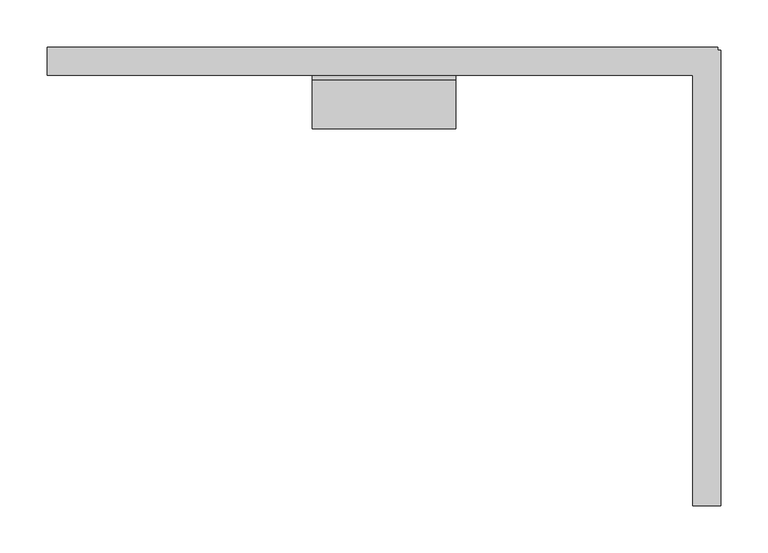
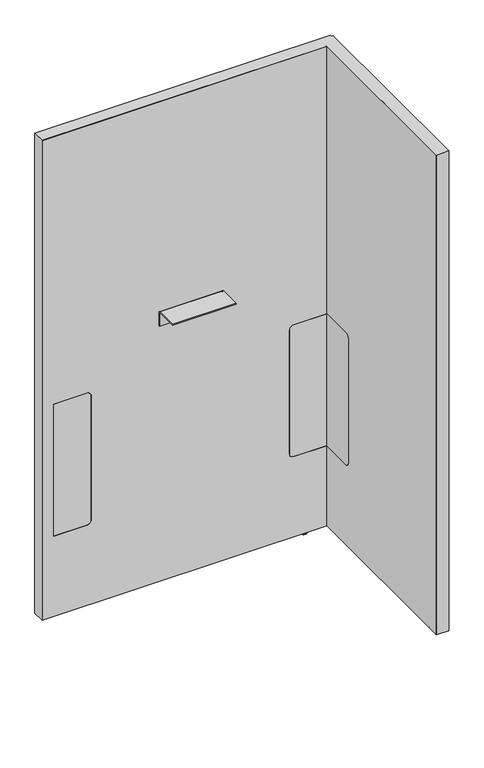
"""IFC4 building model written with IfcOpenShell, lengths in millimetres: furniture geometry, Steelcase - Answer Solution - Boundary Screen - L Return - Single Sided : 48H x 27W."""

from ifc_helpers import new_model, si_unit, point, frame, frame_2d, origin, place, context, project, spatial, polyline, circle_curve, ellipse_curve, trimmed, segment, composite_curve, outline, extrude, faceted_brep, source, transform, mapped, element, save
from ifc_brep_helpers import plane_surface, cylinder_surface, revolved_surface, advanced_brep


def furniture_51c7d5d5(model_context):
    return source(origin(), model_context, "Body", "SolidModel", [
        extrude(outline(composite_curve([segment(polyline([(-109.3501471, 549.6162029), (-29.0550397, 549.6162029), (-29.0550397, 213.7762137), (-109.3501471, 213.7762137)]), True, "CONTINUOUS"), segment(trimmed(circle_curve(frame_2d((-109.3501471, 223.9362137)), 10.16), [point((-109.3501471, 213.7762137))], [point((-119.5101471, 223.9362137))], False, "CARTESIAN"), True, "CONTINUOUS"), segment(polyline([(-119.5101471, 223.9362137), (-119.5101471, 539.4562029)]), True, "CONTINUOUS"), segment(trimmed(circle_curve(frame_2d((-109.3501471, 539.4562029)), 10.16), [point((-119.5101471, 539.4562029))], [point((-109.3501471, 549.6162029))], False, "CARTESIAN"), True, "CONTINUOUS")], self_intersect=False)), frame((915.6191891, 0.0, 0.0), z_axis=(1.0, 0.0, 0.0), x_axis=(0.0, 1.0, 0.0)), (0.0, 0.0, 1.0), 0.6401544),
        advanced_brep(
        [(930.4672074, -448.0136072, 0.0), (937.4216144, -448.0136072, 0.0), (923.5128003, -448.0136072, 0.0), (938.8762685, -448.0136072, 1.2700001), (922.0581463, -448.0136072, 1.2700001), (938.8762685, -448.0136072, 2.9673238), (922.0581463, -448.0136072, 2.9673238), (939.8427877, -448.0136072, 2.9673238), (921.091627, -448.0136072, 2.9673238), (939.8427877, -448.0136072, 9.9059849), (921.091627, -448.0136072, 9.9059849), (930.4672074, -448.0136072, 9.9059849)],
        [
            (0, 1),
            (1, 2, circle_curve(frame((930.4672074, -448.0136072, 0.0), z_axis=(0.0, 0.0, -1.0), x_axis=(1.0, 0.0, 0.0)), 6.9544071)),
            (2, 0),
            (2, 1, circle_curve(frame((930.4672074, -448.0136072, 0.0), z_axis=(0.0, 0.0, -1.0), x_axis=(1.0, 0.0, 0.0)), 6.9544071)),
            (1, 3, circle_curve(frame((937.5945484, -448.0136072, 1.2700001), z_axis=(0.0, -1.0, 0.0), x_axis=(0.0, 0.0, 1.0)), 1.2817201)),
            (3, 4, circle_curve(frame((930.4672074, -448.0136072, 1.2700001), z_axis=(0.0, 0.0, -1.0), x_axis=(1.0, 0.0, 0.0)), 8.4090611)),
            (4, 2, circle_curve(frame((923.3398663, -448.0136072, 1.2700001), z_axis=(0.0, -1.0, 0.0), x_axis=(0.0, 0.0, 1.0)), 1.2817201)),
            (4, 3, circle_curve(frame((930.4672074, -448.0136072, 1.2700001), z_axis=(0.0, 0.0, -1.0), x_axis=(1.0, 0.0, 0.0)), 8.4090611)),
            (3, 5),
            (5, 6, circle_curve(frame((930.4672074, -448.0136072, 2.9673238), z_axis=(0.0, 0.0, -1.0), x_axis=(1.0, 0.0, 0.0)), 8.4090611)),
            (6, 4),
            (6, 5, circle_curve(frame((930.4672074, -448.0136072, 2.9673238), z_axis=(0.0, 0.0, -1.0), x_axis=(1.0, 0.0, 0.0)), 8.4090611)),
            (5, 7),
            (7, 8, circle_curve(frame((930.4672074, -448.0136072, 2.9673238), z_axis=(0.0, 0.0, -1.0), x_axis=(1.0, 0.0, 0.0)), 9.3755804)),
            (8, 6),
            (8, 7, circle_curve(frame((930.4672074, -448.0136072, 2.9673238), z_axis=(0.0, 0.0, -1.0), x_axis=(1.0, 0.0, 0.0)), 9.3755804)),
            (7, 9),
            (9, 10, circle_curve(frame((930.4672074, -448.0136072, 9.9059849), z_axis=(0.0, 0.0, -1.0), x_axis=(1.0, 0.0, 0.0)), 9.3755804)),
            (10, 8),
            (10, 9, circle_curve(frame((930.4672074, -448.0136072, 9.9059849), z_axis=(0.0, 0.0, -1.0), x_axis=(1.0, 0.0, 0.0)), 9.3755804)),
            (9, 11),
            (11, 10),
        ],
        [
            plane_surface(frame((930.4672074, -448.0136072, 0.0), z_axis=(0.0, 0.0, -1.0), x_axis=(1.0, 0.0, 0.0))),
            revolved_surface(trimmed(ellipse_curve(frame((937.5945484, -448.0136072, 1.2700001), z_axis=(0.0, 1.0, 0.0), x_axis=(0.0, 0.0, 1.0)), 1.2817201, 1.2817201), [point((938.8762685, -448.0136072, 1.2700001))], [point((937.4216144, -448.0136072, 0.0))], True, "CARTESIAN"), (930.4672074, -448.0136072, 9.9059849), (0.0, 0.0, -1.0)),
            cylinder_surface(frame((930.4672074, -448.0136072, 9.9059849), z_axis=(0.0, 0.0, -1.0), x_axis=(1.0, 0.0, 0.0)), 8.4090611),
            plane_surface(frame((930.4672074, -448.0136072, 2.9673238), z_axis=(0.0, 0.0, -1.0), x_axis=(1.0, 0.0, 0.0))),
            cylinder_surface(frame((930.4672074, -448.0136072, 9.9059849), z_axis=(0.0, 0.0, -1.0), x_axis=(1.0, 0.0, 0.0)), 9.3755804),
            plane_surface(frame((930.4672074, -448.0136072, 9.9059849), z_axis=(0.0, 0.0, 1.0), x_axis=(1.0, 0.0, 0.0))),
        ],
        [
            (0, [[1, 2, 3]]),
            (0, [[-3, 4, -1]]),
            (1, [[-2, 5, 6, 7]]),
            (1, [[-4, -7, 8, -5]]),
            (2, [[-6, 9, 10, 11]]),
            (2, [[-8, -11, 12, -9]]),
            (3, [[-10, 13, 14, 15]]),
            (3, [[-12, -15, 16, -13]]),
            (4, [[-14, 17, 18, 19]]),
            (4, [[-16, -19, 20, -17]]),
            (5, [[-18, 21, 22]]),
            (5, [[-20, -22, -21]]),
        ],
    ),
        faceted_brep([(942.0531179, 0.0, 1230.122), (942.0531179, 0.0, 9.9059849), (941.0621491, 0.0, 9.9059849), (941.0621491, 0.0, 1229.142118), (230.8097779, 0.0, 1229.142118), (230.8097779, 0.0, 9.9059849), (229.8191891, 0.0, 9.9059849), (229.8191891, 0.0, 1230.122), (229.8191891, -29.6898332, 1230.122), (229.8191891, -29.6898332, 9.9059849), (230.8097779, -29.6898332, 9.9059849), (230.8097779, -29.6898332, 1229.142118), (915.6191891, -29.6898332, 1229.142118), (915.6191891, -29.6898332, 1230.122), (941.0621491, -29.6898332, 1229.142118), (941.0621491, -29.6898332, 9.9059849), (942.0531179, -29.6898332, 9.9059849), (942.0531179, -29.6898332, 1229.142118), (942.0531179, -3.2625916, 1230.122), (942.0531179, -3.2625916, 9.9059849), (942.0531179, -4.252647, 9.9059849), (942.0531179, -4.252647, 1229.142118), (945.3152256, -3.2625916, 9.9059849), (945.3152256, -4.252647, 9.9059849), (941.0621491, -4.252647, 9.9059849), (915.6191891, -4.252647, 9.9059849), (915.6191891, -3.2625916, 9.9059849), (941.0621491, -3.2625916, 9.9059849), (915.6191891, -486.8898332, 1230.122), (945.3152256, -486.8898332, 1230.122), (945.3152256, -3.2625916, 1230.122), (941.0621491, -3.2625916, 1229.142118), (941.0621491, -4.252647, 1229.142118), (915.6191891, -3.2625916, 1229.142118), (915.6191891, -4.252647, 1229.142118), (945.3152256, -4.252647, 1229.142118), (945.3152256, -485.899196, 1229.142118), (915.6191891, -485.899196, 1229.142118), (915.6191891, -485.899196, 9.9059849), (915.6191891, -486.8898332, 9.9059849), (945.3152256, -486.8898332, 9.9059849), (945.3152256, -485.899196, 9.9059849)], [[[0, 1, 2, 3, 4, 5, 6, 7]], [[8, 9, 10, 11, 12, 13]], [[14, 15, 16, 17]], [[1, 0, 18, 19]], [[17, 16, 20, 21]], [[2, 1, 19, 22, 23, 20, 16, 15, 24, 25, 26, 27]], [[7, 6, 9, 8]], [[0, 7, 8, 13, 28, 29, 30, 18]], [[3, 2, 27, 31]], [[15, 14, 32, 24]], [[4, 3, 31, 33, 34, 32, 14, 17, 21, 35, 36, 37, 12, 11]], [[5, 4, 11, 10]], [[6, 5, 10, 9]], [[26, 25, 34, 33]], [[37, 38, 39, 28, 13, 12]], [[29, 40, 41, 36, 35, 23, 22, 30]], [[27, 26, 33, 31]], [[30, 22, 19, 18]], [[34, 25, 24, 32]], [[23, 35, 21, 20]], [[38, 37, 36, 41]], [[39, 38, 41, 40]], [[28, 39, 40, 29]]]),
        extrude(outline(composite_curve([segment(polyline([(-86.8398151, 696.4680019), (-86.8398151, 698.5), (-34.9450855, 698.5)]), True, "CONTINUOUS"), segment(trimmed(circle_curve(frame_2d((-34.9450855, 693.2447477)), 5.2552523), [point((-34.9450855, 698.5))], [point((-29.6898332, 693.2447477))], False, "CARTESIAN"), True, "CONTINUOUS"), segment(polyline([(-29.6898332, 693.2447477), (-29.6898332, 660.4), (-31.7218162, 660.4), (-31.7218162, 693.0058743)]), True, "CONTINUOUS"), segment(trimmed(circle_curve(frame_2d((-35.1839438, 693.0058743)), 3.4621276), [point((-31.7218162, 693.0058743))], [point((-35.1839438, 696.4680019))], True, "CARTESIAN"), True, "CONTINUOUS"), segment(polyline([(-35.1839438, 696.4680019), (-86.8398151, 696.4680019)]), True, "CONTINUOUS")], self_intersect=False)), frame((511.3685899, 0.0, 0.0), z_axis=(1.0, 0.0, 0.0), x_axis=(0.0, 1.0, 0.0)), (0.0, 0.0, 1.0), 152.4000969),
        advanced_brep(
        [(868.1246853, -23.7588726, 9.9059849), (868.1246853, -5.9309607, 9.9059849), (868.1246853, -14.8449166, 9.9059849), (868.1246853, -23.7588726, 2.9673238), (868.1246853, -5.9309607, 2.9673238), (868.1246853, -22.7915354, 2.9673238), (868.1246853, -6.8982978, 2.9673238), (868.1246853, -22.7915354, 1.6569081), (868.1246853, -6.8982978, 1.6569081), (868.1246853, -21.1346274, 0.0), (868.1246853, -8.5552059, 0.0), (868.1246853, -14.8449166, 0.0)],
        [
            (0, 1, circle_curve(frame((868.1246853, -14.8449166, 9.9059849), z_axis=(0.0, 0.0, 1.0), x_axis=(0.0, 1.0, 0.0)), 8.913956)),
            (1, 2),
            (2, 0),
            (1, 0, circle_curve(frame((868.1246853, -14.8449166, 9.9059849), z_axis=(0.0, 0.0, 1.0), x_axis=(0.0, 1.0, 0.0)), 8.913956)),
            (3, 4, circle_curve(frame((868.1246853, -14.8449166, 2.9673238), z_axis=(0.0, 0.0, 1.0), x_axis=(0.0, 1.0, 0.0)), 8.913956)),
            (4, 1),
            (0, 3),
            (4, 3, circle_curve(frame((868.1246853, -14.8449166, 2.9673238), z_axis=(0.0, 0.0, 1.0), x_axis=(0.0, 1.0, 0.0)), 8.913956)),
            (5, 6, circle_curve(frame((868.1246853, -14.8449166, 2.9673238), z_axis=(0.0, 0.0, 1.0), x_axis=(0.0, 1.0, 0.0)), 7.9466188)),
            (6, 4),
            (3, 5),
            (6, 5, circle_curve(frame((868.1246853, -14.8449166, 2.9673238), z_axis=(0.0, 0.0, 1.0), x_axis=(0.0, 1.0, 0.0)), 7.9466188)),
            (7, 8, circle_curve(frame((868.1246853, -14.8449166, 1.6569081), z_axis=(0.0, 0.0, 1.0), x_axis=(0.0, 1.0, 0.0)), 7.9466188)),
            (8, 6),
            (5, 7),
            (8, 7, circle_curve(frame((868.1246853, -14.8449166, 1.6569081), z_axis=(0.0, 0.0, 1.0), x_axis=(0.0, 1.0, 0.0)), 7.9466188)),
            (9, 10, circle_curve(frame((868.1246853, -14.8449166, 0.0), z_axis=(0.0, 0.0, 1.0), x_axis=(0.0, 1.0, 0.0)), 6.2897107)),
            (10, 8, circle_curve(frame((868.1246853, -8.5552059, 1.6569081), z_axis=(1.0, 0.0, 0.0), x_axis=(0.0, 1.0, 0.0)), 1.6569081)),
            (7, 9, circle_curve(frame((868.1246853, -21.1346274, 1.6569081), z_axis=(1.0, 0.0, 0.0), x_axis=(0.0, -1.0, 0.0)), 1.6569081)),
            (10, 9, circle_curve(frame((868.1246853, -14.8449166, 0.0), z_axis=(0.0, 0.0, 1.0), x_axis=(0.0, 1.0, 0.0)), 6.2897107)),
            (11, 10),
            (9, 11),
        ],
        [
            plane_surface(frame((868.1246853, -14.8449166, 9.9059849), z_axis=(0.0, 0.0, 1.0), x_axis=(0.0, 1.0, 0.0))),
            cylinder_surface(frame((868.1246853, -14.8449166, 9.9059849), z_axis=(0.0, 0.0, -1.0), x_axis=(0.0, 1.0, 0.0)), 8.913956),
            plane_surface(frame((868.1246853, -14.8449166, 2.9673238), z_axis=(0.0, 0.0, -1.0), x_axis=(0.0, 1.0, 0.0))),
            cylinder_surface(frame((868.1246853, -14.8449166, 9.9059849), z_axis=(0.0, 0.0, -1.0), x_axis=(0.0, 1.0, 0.0)), 7.9466188),
            revolved_surface(trimmed(ellipse_curve(frame((868.1246853, -8.5552059, 1.6569081), z_axis=(-1.0, 0.0, 0.0), x_axis=(0.0, 1.0, 0.0)), 1.6569081, 1.6569081), [point((868.1246853, -6.8982978, 1.6569081))], [point((868.1246853, -8.5552059, 0.0))], True, "CARTESIAN"), (868.1246853, -14.8449166, 9.9059849), (0.0, 0.0, -1.0)),
            plane_surface(frame((868.1246853, -14.8449166, 0.0), z_axis=(0.0, 0.0, -1.0), x_axis=(0.0, 1.0, 0.0))),
        ],
        [
            (0, [[1, 2, 3]]),
            (0, [[4, -3, -2]]),
            (1, [[5, 6, -1, 7]]),
            (1, [[8, -7, -4, -6]]),
            (2, [[9, 10, -5, 11]]),
            (2, [[12, -11, -8, -10]]),
            (3, [[13, 14, -9, 15]]),
            (3, [[16, -15, -12, -14]]),
            (4, [[17, 18, -13, 19]]),
            (4, [[20, -19, -16, -18]]),
            (5, [[21, -17, 22]]),
            (5, [[-22, -20, -21]]),
        ],
    ),
        advanced_brep(
        [(230.8097779, 0.0, 1229.142118), (941.0621491, 0.0, 1229.142118), (941.0621491, 0.0, 9.9059849), (230.8097779, 0.0, 9.9059849), (347.9483813, -29.0550397, 539.4562029), (337.7883813, -29.0550397, 549.6162029), (258.1344836, -29.0550397, 549.6162029), (258.1344836, -29.0550397, 213.7762137), (337.7883813, -29.0550397, 213.7762137), (347.9483813, -29.0550397, 223.9362137), (916.2593435, -29.0550397, 213.7762137), (916.2593435, -29.0550397, 549.6162029), (835.7109268, -29.0550397, 549.6162029), (825.5509268, -29.0550397, 539.4562029), (825.5509268, -29.0550397, 223.9362137), (835.7109268, -29.0550397, 213.7762137), (230.8097779, -29.6898332, 1229.142118), (230.8097779, -29.6898332, 9.9059849), (915.6191891, -29.6898332, 9.9059849), (915.6191891, -29.6898332, 213.7762137), (835.7109268, -29.6898332, 213.7762137), (825.5509268, -29.6898332, 223.9362137), (825.5509268, -29.6898332, 539.4562029), (835.7109268, -29.6898332, 549.6162029), (915.6191891, -29.6898332, 549.6162029), (915.6191891, -29.6898332, 1229.142118), (337.7883813, -29.6898332, 549.6162029), (347.9483813, -29.6898332, 539.4562029), (347.9483813, -29.6898332, 223.9362137), (337.7883813, -29.6898332, 213.7762137), (258.1344836, -29.6898332, 213.7762137), (258.1344836, -29.6898332, 549.6162029), (941.0621491, -4.252647, 9.9059849), (945.3152256, -4.252647, 9.9059849), (945.3152256, -485.899196, 9.9059849), (915.6191891, -485.899196, 9.9059849), (941.0621491, -4.252647, 1229.142118), (915.6191891, -485.899196, 1229.142118), (945.3152256, -485.899196, 1229.142118), (945.3152256, -4.252647, 1229.142118), (916.2593435, -109.3501471, 549.6162029), (915.6191891, -109.3501471, 549.6162029), (916.2593435, -109.3501471, 213.7762137), (916.2593435, -119.5101471, 223.9362137), (916.2593435, -119.5101471, 539.4562029), (915.6191891, -109.3501471, 213.7762137), (915.6191891, -119.5101471, 539.4562029), (915.6191891, -119.5101471, 223.9362137)],
        [
            (0, 1),
            (1, 2),
            (2, 3),
            (3, 0),
            (4, 5, circle_curve(frame((337.7883813, -29.0550397, 539.4562029), z_axis=(0.0, -1.0, 0.0), x_axis=(0.0, 0.0, 1.0)), 10.16)),
            (5, 6),
            (6, 7),
            (7, 8),
            (8, 9, circle_curve(frame((337.7883813, -29.0550397, 223.9362137), z_axis=(0.0, -1.0, 0.0), x_axis=(0.0, 0.0, 1.0)), 10.16)),
            (9, 4),
            (10, 11),
            (11, 12),
            (12, 13, circle_curve(frame((835.7109268, -29.0550397, 539.4562029), z_axis=(0.0, -1.0, 0.0), x_axis=(0.0, 0.0, 1.0)), 10.16)),
            (13, 14),
            (14, 15, circle_curve(frame((835.7109268, -29.0550397, 223.9362137), z_axis=(0.0, -1.0, 0.0), x_axis=(0.0, 0.0, 1.0)), 10.16)),
            (15, 10),
            (16, 17),
            (17, 18),
            (18, 19),
            (19, 20),
            (20, 21, circle_curve(frame((835.7109268, -29.6898332, 223.9362137), z_axis=(0.0, 1.0, 0.0), x_axis=(0.0, 0.0, 1.0)), 10.16)),
            (21, 22),
            (22, 23, circle_curve(frame((835.7109268, -29.6898332, 539.4562029), z_axis=(0.0, 1.0, 0.0), x_axis=(0.0, 0.0, 1.0)), 10.16)),
            (23, 24),
            (24, 25),
            (25, 16),
            (26, 27, circle_curve(frame((337.7883813, -29.6898332, 539.4562029), z_axis=(0.0, 1.0, 0.0), x_axis=(0.0, 0.0, 1.0)), 10.16)),
            (27, 28),
            (28, 29, circle_curve(frame((337.7883813, -29.6898332, 223.9362137), z_axis=(0.0, 1.0, 0.0), x_axis=(0.0, 0.0, 1.0)), 10.16)),
            (29, 30),
            (30, 31),
            (31, 26),
            (16, 0),
            (3, 17),
            (2, 32),
            (32, 33),
            (33, 34),
            (34, 35),
            (35, 18),
            (1, 36),
            (36, 32),
            (25, 37),
            (37, 38),
            (38, 39),
            (39, 36),
            (26, 5),
            (4, 27),
            (9, 28),
            (8, 29),
            (7, 30),
            (6, 31),
            (11, 40),
            (40, 41),
            (41, 24),
            (23, 12),
            (42, 43, circle_curve(frame((916.2593435, -109.3501471, 223.9362137), z_axis=(-1.0, 0.0, 0.0), x_axis=(0.0, 1.0, 0.0)), 10.16)),
            (43, 44),
            (44, 40, circle_curve(frame((916.2593435, -109.3501471, 539.4562029), z_axis=(-1.0, 0.0, 0.0), x_axis=(0.0, 1.0, 0.0)), 10.16)),
            (10, 42),
            (15, 20),
            (19, 45),
            (45, 42),
            (14, 21),
            (13, 22),
            (35, 37),
            (41, 46, circle_curve(frame((915.6191891, -109.3501471, 539.4562029), z_axis=(1.0, 0.0, 0.0), x_axis=(0.0, 1.0, 0.0)), 10.16)),
            (46, 47),
            (47, 45, circle_curve(frame((915.6191891, -109.3501471, 223.9362137), z_axis=(1.0, 0.0, 0.0), x_axis=(0.0, 1.0, 0.0)), 10.16)),
            (38, 34),
            (33, 39),
            (44, 46),
            (43, 47),
        ],
        [
            plane_surface(frame((347.9483813, 0.0, 549.6162029), z_axis=(0.0, 1.0, 0.0), x_axis=(0.0, 0.0, -1.0))),
            plane_surface(frame((347.9483813, -29.0550397, 549.6162029), z_axis=(0.0, -1.0, 0.0), x_axis=(0.0, 0.0, 1.0))),
            plane_surface(frame((941.0621491, -29.6898332, 1229.142118), z_axis=(0.0, -1.0, 0.0), x_axis=(-1.0, 0.0, 0.0))),
            plane_surface(frame((230.8097779, 0.0, 9.9059849), z_axis=(-1.0, 0.0, 0.0), x_axis=(0.0, -1.0, 0.0))),
            plane_surface(frame((941.0621491, 0.0, 9.9059849), z_axis=(0.0, 0.0, -1.0), x_axis=(0.0, -1.0, 0.0))),
            plane_surface(frame((941.0621491, 0.0, 1229.142118), z_axis=(1.0, 0.0, 0.0), x_axis=(0.0, -1.0, 0.0))),
            plane_surface(frame((230.8097779, 0.0, 1229.142118), z_axis=(0.0, 0.0, 1.0), x_axis=(0.0, -1.0, 0.0))),
            revolved_surface(polyline([(337.7883813, -29.6898332, 549.6162029), (337.7883813, -29.0550397, 549.6162029)]), (337.7883813, -29.6898332, 539.4562029), (0.0, -1.0, 0.0)),
            plane_surface(frame((347.9483813, 0.0, 223.9362137), z_axis=(-1.0, 0.0, 0.0), x_axis=(0.0, -1.0, 0.0))),
            revolved_surface(polyline([(337.7883813, -29.6898332, 234.0962137), (337.7883813, -29.0550397, 234.0962137)]), (337.7883813, -29.6898332, 223.9362137), (0.0, -1.0, 0.0)),
            plane_surface(frame((258.1344836, 0.0, 213.7762137), z_axis=(0.0, 0.0, 1.0), x_axis=(0.0, -1.0, 0.0))),
            plane_surface(frame((258.1344836, 0.0, 549.6162029), z_axis=(1.0, 0.0, 0.0), x_axis=(0.0, -1.0, 0.0))),
            plane_surface(frame((337.7883813, 0.0, 549.6162029), z_axis=(0.0, 0.0, -1.0), x_axis=(0.0, -1.0, 0.0))),
            plane_surface(frame((916.2593435, 0.0, 549.6162029), z_axis=(0.0, 0.0, -1.0), x_axis=(0.0, -1.0, 0.0))),
            plane_surface(frame((916.2593435, 0.0, 213.7762137), z_axis=(-1.0, 0.0, 0.0), x_axis=(0.0, -1.0, 0.0))),
            plane_surface(frame((835.7109268, 0.0, 213.7762137), z_axis=(0.0, 0.0, 1.0), x_axis=(0.0, -1.0, 0.0))),
            revolved_surface(polyline([(835.7109268, -29.6898332, 234.0962137), (835.7109268, -29.0550397, 234.0962137)]), (835.7109268, -29.6898332, 223.9362137), (0.0, -1.0, 0.0)),
            plane_surface(frame((825.5509268, 0.0, 539.4562029), z_axis=(1.0, 0.0, 0.0), x_axis=(0.0, -1.0, 0.0))),
            revolved_surface(polyline([(835.7109268, -29.6898332, 549.6162029), (835.7109268, -29.0550397, 549.6162029)]), (835.7109268, -29.6898332, 539.4562029), (0.0, -1.0, 0.0)),
            plane_surface(frame((915.6191891, -485.899196, 1229.142118), z_axis=(-1.0, 0.0, 0.0), x_axis=(0.0, 0.0, 1.0))),
            plane_surface(frame((945.3152256, -485.899196, 1229.142118), z_axis=(1.0, 0.0, 0.0), x_axis=(0.0, 0.0, -1.0))),
            plane_surface(frame((945.3152256, -4.252647, 9.9059849), z_axis=(0.0, 1.0, 0.0), x_axis=(-1.0, 0.0, 0.0))),
            plane_surface(frame((945.3152256, -485.899196, 1229.142118), z_axis=(0.0, -1.0, 0.0), x_axis=(-1.0, 0.0, 0.0))),
            revolved_surface(polyline([(915.6191891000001, -99.1901471, 539.4562029), (916.2593435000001, -99.1901471, 539.4562029)]), (-340.6902705, -109.3501471, 539.4562029), (-1.0, 0.0, 0.0)),
            plane_surface(frame((945.3152256, -119.5101471, 223.9362137), z_axis=(0.0, 1.0, 0.0), x_axis=(-1.0, 0.0, 0.0))),
            revolved_surface(polyline([(915.6191891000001, -99.1901471, 223.9362137), (916.2593435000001, -99.1901471, 223.9362137)]), (-340.6902705, -109.3501471, 223.9362137), (-1.0, 0.0, 0.0)),
        ],
        [
            (0, [[1, 2, 3, 4]]),
            (1, [[5, 6, 7, 8, 9, 10]]),
            (1, [[11, 12, 13, 14, 15, 16]]),
            (2, [[17, 18, 19, 20, 21, 22, 23, 24, 25, 26], [27, 28, 29, 30, 31, 32]]),
            (3, [[-17, 33, -4, 34]]),
            (4, [[-3, 35, 36, 37, 38, 39, -18, -34]]),
            (5, [[-2, 40, 41, -35]]),
            (6, [[-1, -33, -26, 42, 43, 44, 45, -40]]),
            (7, [[-27, 46, -5, 47]]),
            (8, [[-28, -47, -10, 48]]),
            (9, [[-29, -48, -9, 49]]),
            (10, [[-30, -49, -8, 50]]),
            (11, [[-31, -50, -7, 51]]),
            (12, [[-32, -51, -6, -46]]),
            (13, [[52, 53, 54, -24, 55, -12]]),
            (14, [[56, 57, 58, -52, -11, 59]]),
            (15, [[-59, -16, 60, -20, 61, 62]]),
            (16, [[-21, -60, -15, 63]]),
            (17, [[-22, -63, -14, 64]]),
            (18, [[-23, -64, -13, -55]]),
            (19, [[65, -42, -25, -54, 66, 67, 68, -61, -19, -39]]),
            (20, [[69, -37, 70, -44]]),
            (21, [[-70, -36, -41, -45]]),
            (22, [[-65, -38, -69, -43]]),
            (23, [[-66, -53, -58, 71]]),
            (24, [[-67, -71, -57, 72]]),
            (25, [[-68, -72, -56, -62]]),
        ],
    ),
        extrude(outline(composite_curve([segment(polyline([(549.6162029, 337.7883813), (549.6162029, 258.1344836), (213.7762137, 258.1344836), (213.7762137, 337.7883813)]), True, "CONTINUOUS"), segment(trimmed(circle_curve(frame_2d((223.9362137, 337.7883813)), 10.16), [point((213.7762137, 337.7883813))], [point((223.9362137, 347.9483813))], False, "CARTESIAN"), True, "CONTINUOUS"), segment(polyline([(223.9362137, 347.9483813), (539.4562029, 347.9483813)]), True, "CONTINUOUS"), segment(trimmed(circle_curve(frame_2d((539.4562029, 337.7883813)), 10.16), [point((539.4562029, 347.9483813))], [point((549.6162029, 337.7883813))], False, "CARTESIAN"), True, "CONTINUOUS")], self_intersect=False)), frame((0.0, -29.6898332, 0.0), z_axis=(0.0, 1.0, 0.0), x_axis=(0.0, 0.0, 1.0)), (0.0, 0.0, 1.0), 0.6347935),
        extrude(outline(composite_curve([segment(trimmed(circle_curve(frame_2d((539.4562029, 835.7109268)), 10.16), [point((549.6162029, 835.7109268))], [point((539.4562029, 825.5509268))], False, "CARTESIAN"), True, "CONTINUOUS"), segment(polyline([(539.4562029, 825.5509268), (223.9362137, 825.5509268)]), True, "CONTINUOUS"), segment(trimmed(circle_curve(frame_2d((223.9362137, 835.7109268)), 10.16), [point((223.9362137, 825.5509268))], [point((213.7762137, 835.7109268))], False, "CARTESIAN"), True, "CONTINUOUS"), segment(polyline([(213.7762137, 835.7109268), (213.7762137, 915.6191891), (549.6162029, 915.6191891), (549.6162029, 835.7109268)]), True, "CONTINUOUS")], self_intersect=False)), frame((0.0, -29.6898332, 0.0), z_axis=(0.0, 1.0, 0.0), x_axis=(0.0, 0.0, 1.0)), (0.0, 0.0, 1.0), 0.6347935),
    ])


if __name__ == "__main__":
    model = new_model("IFC4")
    model_context = context("Model", 3, world=origin())
    ifc_project = project(units=[si_unit("LENGTHUNIT", "METRE", prefix="MILLI")], contexts=[model_context])
    site = spatial("IfcSite", under=ifc_project)
    building = spatial("IfcBuilding", under=site)
    placement = place(None, origin())
    furniture_shape = furniture_51c7d5d5(model_context)
    element("IfcFurniture", 1, ObjectType="Steelcase - Answer Solution - Boundary Screen - L Return - Single Sided : 48H x 27W", at=placement, inside=building, context=model_context, shape_type="MappedRepresentation", body=[
        mapped(furniture_shape, transform((0.0, 0.0, 0.0), x_axis=(1.0, 0.0, 0.0), y_axis=(0.0, 1.0, 0.0), z_axis=(0.0, 0.0, 1.0))),
    ])
    save(model, "model.ifc")
